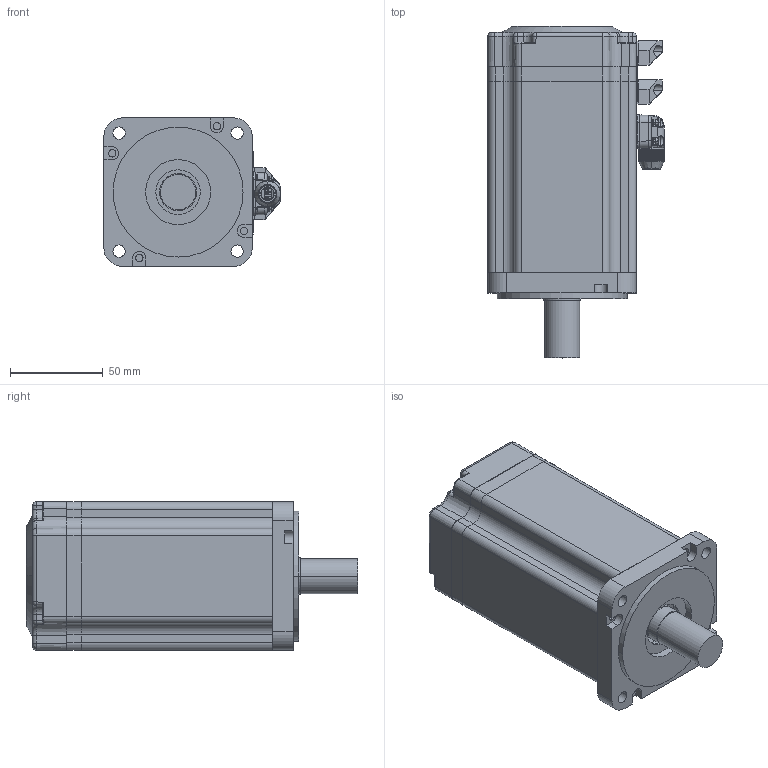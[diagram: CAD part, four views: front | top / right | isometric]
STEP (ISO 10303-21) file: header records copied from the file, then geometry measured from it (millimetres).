
FILE_DESCRIPTION((''),'2;1');
FILE_NAME('750-Z_ASM_1_ASM_ASM','2020-08-06T',('PCBD'),(''),'PRO/ENGINEER BY PARAMETRIC TECHNOLOGY CORPORATION, 2010280','PRO/ENGINEER BY PARAMETRIC TECHNOLOGY CORPORATION, 2010280','');
FILE_SCHEMA(('CONFIG_CONTROL_DESIGN'));
Products named in the file (27): 80-JK-001_2; 80-QG-001_6; 80-HG-001_8; HZ80-27_3; PRODUCT_168_1; PRODUCT_1549_1; ASM0006_ASM_1_ASM_ASM; YAKUAI_ASM_1_ASM_ASM; 80-ZZ-001_4; PRT0137_1; PRT0138_1; PRT0139_1; PRT0140_1; PRT0141_1; PRT0142_1; PRT0143_1; PRT0144_1; PRT0145_1; PRT0146_1; PRT0147_1; ASM0039_ASM_1_ASM_ASM; PRT0148_1; PRT0149_1; PRT0150_1; PRT0151_1; ASM0038_ASM_1_ASM_ASM; 750-Z_ASM_1_ASM_ASM
Assembly tree (48 placements, depth 4):
  750-Z_ASM_1_ASM_ASM
    80-JK-001_2
    80-QG-001_6
    80-HG-001_8
    HZ80-27_3
    YAKUAI_ASM_1_ASM_ASM  x2
      ASM0006_ASM_1_ASM_ASM
        PRODUCT_168_1
        PRODUCT_1549_1
    80-ZZ-001_4
    ASM0038_ASM_1_ASM_ASM
      PRT0137_1
      PRT0138_1
      PRT0139_1
      PRT0140_1
      PRT0141_1
      PRT0142_1
      PRT0143_1
      PRT0144_1  x4
      ASM0039_ASM_1_ASM_ASM  x4
        PRT0145_1
        PRT0146_1
        PRT0147_1
      PRT0148_1
      PRT0149_1
      PRT0150_1  x8
      PRT0151_1  x9
Bounding box: 95.38 x 178.9 x 80.32 mm (x, y, z)
Volume: 290794.1 mm3; surface area: 158155.3 mm2
Topology: 51 solids, 55 shells, 5822 faces, 14402 edges, 8594 vertices
Faces by surface type: plane 3177, cylinder 1046, bspline 907, cone 374, sphere 138, torus 137, extrusion 34, revolution 9
Entity records: 124778 total; most frequent: CARTESIAN_POINT 45172, ORIENTED_EDGE 17194, DIRECTION 15163, EDGE_CURVE 8629, VECTOR 5438, LINE 5418, VERTEX_POINT 5370, AXIS2_PLACEMENT_3D 4862
